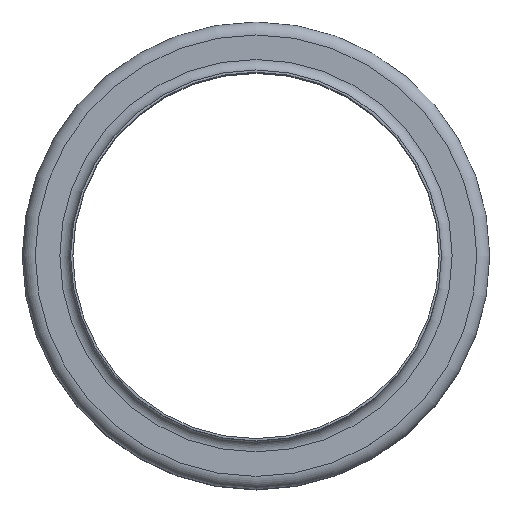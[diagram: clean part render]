
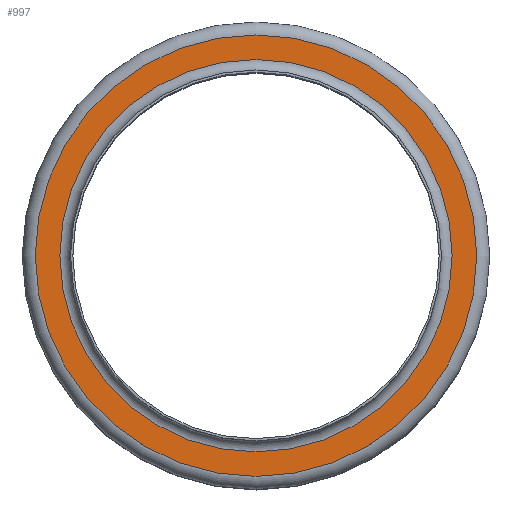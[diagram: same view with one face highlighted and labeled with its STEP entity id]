
A CAD part, top view. The second image highlights one B-rep face of the part: STEP entity #997.
In plain terms, the highlighted planar face has unit normal (0, 0, 1).
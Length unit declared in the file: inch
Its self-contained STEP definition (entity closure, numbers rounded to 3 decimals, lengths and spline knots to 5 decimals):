
#95=FACE_BOUND('',#269,.T.);
#162=FACE_OUTER_BOUND('',#268,.T.);
#268=EDGE_LOOP('',(#769));
#269=EDGE_LOOP('',(#770));
#382=CIRCLE('',#1186,1.55275);
#383=CIRCLE('',#1188,1.74725);
#463=VERTEX_POINT('',#1810);
#464=VERTEX_POINT('',#1814);
#568=EDGE_CURVE('',#463,#463,#382,.T.);
#569=EDGE_CURVE('',#464,#464,#383,.T.);
#769=ORIENTED_EDGE('',*,*,#569,.F.);
#770=ORIENTED_EDGE('',*,*,#568,.T.);
#851=PLANE('',#1187);
#997=ADVANCED_FACE('',(#162,#95),#851,.T.);
#1186=AXIS2_PLACEMENT_3D('',#1812,#1522,#1523);
#1187=AXIS2_PLACEMENT_3D('',#1813,#1524,#1525);
#1188=AXIS2_PLACEMENT_3D('',#1815,#1526,#1527);
#1522=DIRECTION('center_axis',(0.,0.,-1.));
#1523=DIRECTION('ref_axis',(1.,0.,0.));
#1524=DIRECTION('center_axis',(0.,0.,1.));
#1525=DIRECTION('ref_axis',(1.,0.,0.));
#1526=DIRECTION('center_axis',(0.,0.,-1.));
#1527=DIRECTION('ref_axis',(1.,0.,0.));
#1810=CARTESIAN_POINT('',(1.55275,0.,-0.08475));
#1812=CARTESIAN_POINT('Origin',(0.,0.,-0.08475));
#1813=CARTESIAN_POINT('Origin',(0.,1.74725,-0.08475));
#1814=CARTESIAN_POINT('',(1.74725,0.,-0.08475));
#1815=CARTESIAN_POINT('Origin',(0.,0.,-0.08475));
